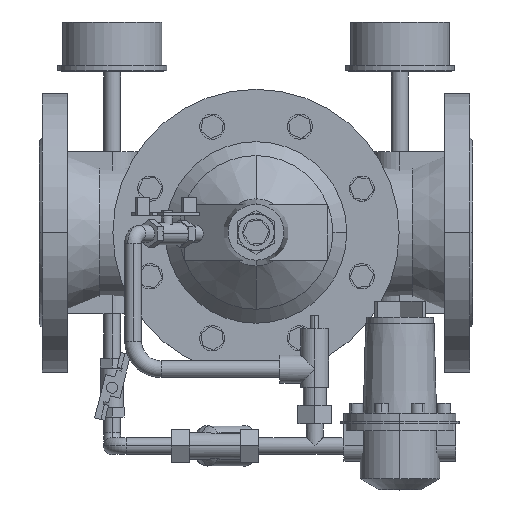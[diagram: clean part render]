
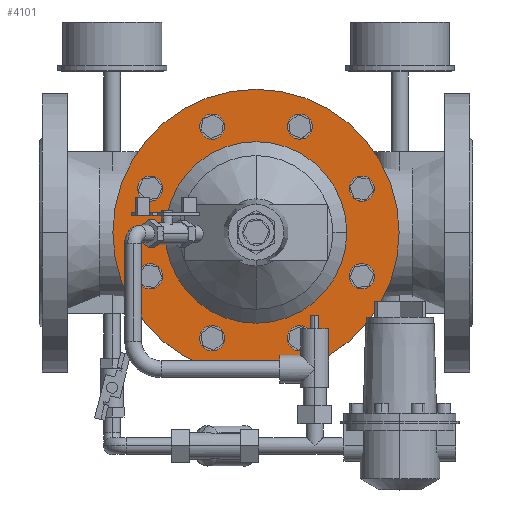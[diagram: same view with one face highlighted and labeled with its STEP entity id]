
A CAD part, top view. The second image highlights one B-rep face of the part: STEP entity #4101.
In plain terms, the highlighted planar face has unit normal (0, 0, 1).
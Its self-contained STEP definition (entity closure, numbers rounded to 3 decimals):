
#4101=ADVANCED_FACE('',(#7968),#7969,.T.);
#7968=FACE_OUTER_BOUND('',#12944,.T.);
#7969=PLANE('',#12945);
#12944=EDGE_LOOP('',(#19297,#19298));
#12945=AXIS2_PLACEMENT_3D('',#19299,#19300,#19301);
#19297=ORIENTED_EDGE('',*,*,#28134,.F.);
#19298=ORIENTED_EDGE('',*,*,#28135,.F.);
#19299=CARTESIAN_POINT('',(155.0,0.0,88.004));
#19300=DIRECTION('',(0.,0.0,1.0));
#19301=DIRECTION('',(1.0,0.0,0.));
#28134=EDGE_CURVE('',#33582,#33583,#33584,.T.);
#28135=EDGE_CURVE('',#33583,#33582,#33585,.T.);
#33582=VERTEX_POINT('',#51432);
#33583=VERTEX_POINT('',#51433);
#33584=CIRCLE('',#51434,102.5);
#33585=CIRCLE('',#51435,102.5);
#51432=CARTESIAN_POINT('',(257.5,0.0,88.004));
#51433=CARTESIAN_POINT('',(52.5,0.,88.004));
#51434=AXIS2_PLACEMENT_3D('',#57877,#57878,#57879);
#51435=AXIS2_PLACEMENT_3D('',#57880,#57881,#57882);
#57877=CARTESIAN_POINT('',(155.0,0.0,88.004));
#57878=DIRECTION('',(0.,0.0,-1.0));
#57879=DIRECTION('',(1.0,0.0,0.));
#57880=CARTESIAN_POINT('',(155.0,0.0,88.004));
#57881=DIRECTION('',(0.,0.0,-1.0));
#57882=DIRECTION('',(1.0,0.0,0.));
